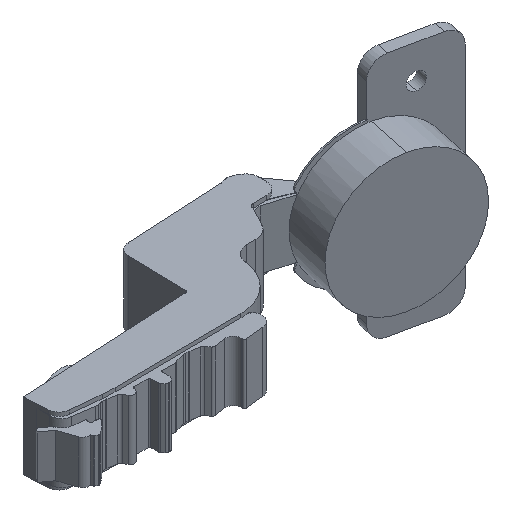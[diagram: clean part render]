
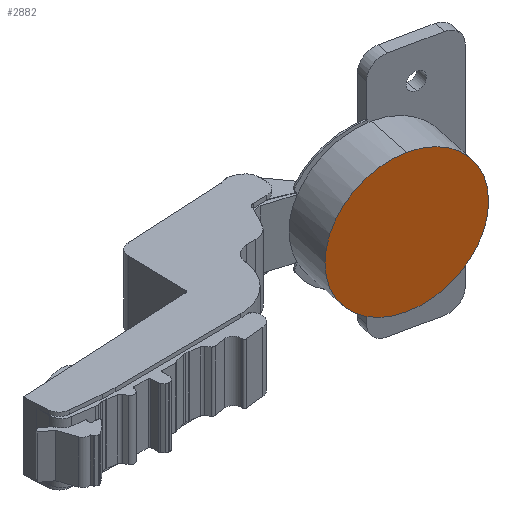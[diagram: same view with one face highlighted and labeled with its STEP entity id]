
A CAD part, isometric view. The second image highlights one B-rep face of the part: STEP entity #2882.
In plain terms, the highlighted planar face has unit normal (-0.207, -0.978, 0).
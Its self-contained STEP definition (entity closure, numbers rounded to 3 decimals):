
#7 = ORIENTED_EDGE ( 'NONE', *, *, #2271, .T. ) ;
#26 = AXIS2_PLACEMENT_3D ( 'NONE', #4094, #3281, #2514 ) ;
#46 = AXIS2_PLACEMENT_3D ( 'NONE', #2344, #3712, #5358 ) ;
#137 = EDGE_LOOP ( 'NONE', ( #7, #4051 ) ) ;
#782 = EDGE_CURVE ( 'NONE', #3738, #5335, #5045, .T. ) ;
#1095 = AXIS2_PLACEMENT_3D ( 'NONE', #3008, #1805, #3471 ) ;
#1314 = CARTESIAN_POINT ( 'NONE',  ( 42.825, 6.635, 17.4 ) ) ;
#1805 = DIRECTION ( 'NONE',  ( 0.207, 0.978, 0. ) ) ;
#2271 = EDGE_CURVE ( 'NONE', #5335, #3738, #4885, .T. ) ;
#2344 = CARTESIAN_POINT ( 'NONE',  ( 42.825, 6.635, 0. ) ) ;
#2514 = DIRECTION ( 'NONE',  ( 0., 0., -1. ) ) ;
#2882 = ADVANCED_FACE ( 'NONE', ( #3931 ), #5070, .F. ) ;
#3008 = CARTESIAN_POINT ( 'NONE',  ( 53.554, 4.365, -7.7 ) ) ;
#3281 = DIRECTION ( 'NONE',  ( -0.207, -0.978, 0. ) ) ;
#3471 = DIRECTION ( 'NONE',  ( 0., 0., 1. ) ) ;
#3712 = DIRECTION ( 'NONE',  ( -0.207, -0.978, 0. ) ) ;
#3738 = VERTEX_POINT ( 'NONE', #3994 ) ;
#3931 = FACE_OUTER_BOUND ( 'NONE', #137, .T. ) ;
#3994 = CARTESIAN_POINT ( 'NONE',  ( 42.825, 6.635, -17.4 ) ) ;
#4051 = ORIENTED_EDGE ( 'NONE', *, *, #782, .T. ) ;
#4094 = CARTESIAN_POINT ( 'NONE',  ( 42.825, 6.635, 0. ) ) ;
#4885 = CIRCLE ( 'NONE', #46, 17.4 ) ;
#5045 = CIRCLE ( 'NONE', #26, 17.4 ) ;
#5070 = PLANE ( 'NONE',  #1095 ) ;
#5335 = VERTEX_POINT ( 'NONE', #1314 ) ;
#5358 = DIRECTION ( 'NONE',  ( 0., 0., -1. ) ) ;
